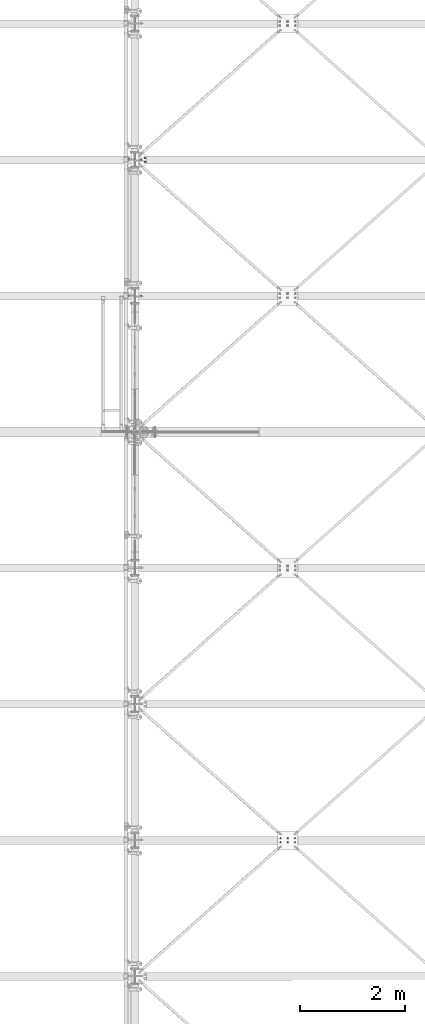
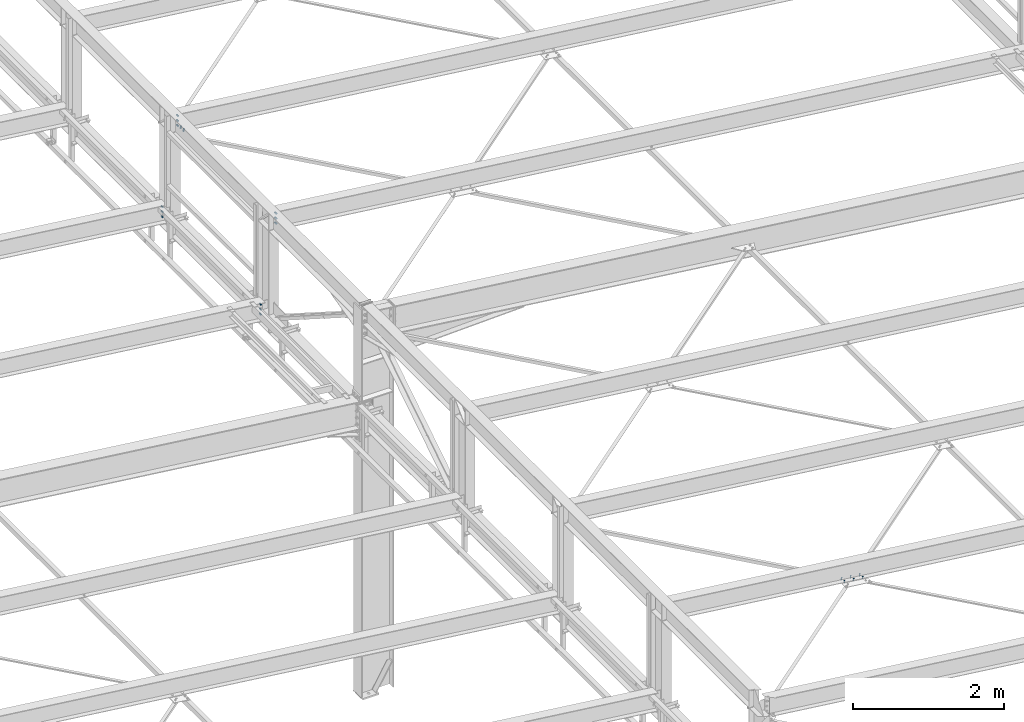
# One storey, part 255 of 3134: 6 mechanical fasteners, 5 elements without a shape of their own.
"""IFC2X3 building model written with IfcOpenShell, lengths in millimetres."""

import ifcopenshell
import ifcopenshell.guid

model = None  # the IFC model being written
_history = None  # IfcOwnerHistory: only IFC2X3 demands one
_inside = {}  # id of a spatial element -> (the spatial element, [elements in it])
_under = {}  # id of a project, library or spatial element -> (it, [spatial elements below it])
_declared = {}  # id of a project -> (the project, [libraries it declares])
_typed = {}  # id of a type object -> (the type object, [elements of that type])
_made_of = {}  # id of a material, layer set ... -> (it, [elements and type objects made of it])


def new_model(schema):
    """Start an empty IFC model of exactly this schema.

    Asked for "IFC4X3", IfcOpenShell would pick the latest addendum, in which some entities
    have other attributes; the version numbers below select the first issue.
    IFC2X3 requires an IfcOwnerHistory on every rooted entity: one is made here for all.
    """
    global model, _history
    if schema == "IFC4X3":
        model = ifcopenshell.file(schema_version=(4, 3, 0, 0))
    else:
        model = ifcopenshell.file(schema=schema)
    _inside.clear()
    _under.clear()
    _declared.clear()
    _typed.clear()
    _made_of.clear()
    _history = None
    if model.schema == "IFC2X3":
        org = make("IfcOrganization", Name="unknown")
        user = make(
            "IfcPersonAndOrganization",
            ThePerson=make("IfcPerson", FamilyName="unknown"),
            TheOrganization=org,
        )
        app = make(
            "IfcApplication",
            ApplicationDeveloper=org,
            Version="unknown",
            ApplicationFullName="unknown",
            ApplicationIdentifier="unknown",
        )
        _history = make(
            "IfcOwnerHistory",
            OwningUser=user,
            OwningApplication=app,
            ChangeAction="ADDED",
            CreationDate=0,
        )
    return model


def make(cls, **values):
    """One entity of the class cls with the attributes given. An attribute that is None is left unset."""
    return model.create_entity(
        cls, **{name: value for name, value in values.items() if value is not None}
    )


def rooted(cls, **values):
    """An entity with a GlobalId (a new one), such as an element, a storey or a relation."""
    return make(cls, GlobalId=ifcopenshell.guid.new(), OwnerHistory=_history, **values)


def si_unit(unit_type, name, prefix=None):
    """IfcSIUnit, for example si_unit("LENGTHUNIT", "METRE", prefix="MILLI")."""
    return make("IfcSIUnit", UnitType=unit_type, Prefix=prefix, Name=name)


def assignment(units):
    """IfcUnitAssignment: the units of a project."""
    return None if units is None else make("IfcUnitAssignment", Units=units)


def point(xyz):
    """IfcCartesianPoint."""
    return None if xyz is None else make("IfcCartesianPoint", Coordinates=xyz)


def direction(xyz):
    """IfcDirection."""
    return None if xyz is None else make("IfcDirection", DirectionRatios=xyz)


def frame(location, z_axis=None, x_axis=None):
    """IfcAxis2Placement3D, a coordinate frame: its origin and axes. An axis left out is left unset."""
    return make(
        "IfcAxis2Placement3D",
        Location=point(location),
        Axis=direction(z_axis),
        RefDirection=direction(x_axis),
    )


def origin_with_axes():
    """The frame at (0, 0, 0) with the z axis (0, 0, 1) and the x axis (1, 0, 0) written out."""
    return frame((0.0, 0.0, 0.0), z_axis=(0.0, 0.0, 1.0), x_axis=(1.0, 0.0, 0.0))


def place(relative_to, where):
    """IfcLocalPlacement: puts the frame where relative to a parent placement (None: the world)."""
    return make(
        "IfcLocalPlacement", PlacementRelTo=relative_to, RelativePlacement=where
    )


def context(
    kind, dimensions, precision=None, world=None, true_north=None, identifier=None
):
    """IfcGeometricRepresentationContext, for example the 3D "Model" context."""
    return make(
        "IfcGeometricRepresentationContext",
        ContextIdentifier=identifier,
        ContextType=kind,
        CoordinateSpaceDimension=dimensions,
        Precision=precision,
        WorldCoordinateSystem=world,
        TrueNorth=true_north,
    )


def subcontext(parent, identifier, kind, view, scale=None):
    """IfcGeometricRepresentationSubContext, for example "Body" below "Model"."""
    return make(
        "IfcGeometricRepresentationSubContext",
        ContextIdentifier=identifier,
        ContextType=kind,
        ParentContext=parent,
        TargetScale=scale,
        TargetView=view,
    )


def project(units=None, contexts=None):
    """IfcProject with its units and contexts."""
    return rooted(
        "IfcProject",
        Name="project",
        RepresentationContexts=contexts,
        UnitsInContext=assignment(units),
    )


def spatial(cls, under=None, at=None, **own):
    """A site, building, storey or space (cls), placed at a placement, below another one or the project."""
    s = rooted(cls, ObjectPlacement=at, **own)
    if under is not None:
        _under.setdefault(under.id(), (under, []))[1].append(s)
    return s


def faces_of(points, faces, orient=None, outer=None):
    """IfcFace entities. A face is a list of loops; a loop is a list of indices into points, from 0.

    orient and outer hold one flag for each loop. By default every Orientation is true, the
    first loop of a face is its IfcFaceOuterBound and the others are IfcFaceBound.
    """
    made = []
    for i, loops in enumerate(faces):
        bounds = []
        for j, loop in enumerate(loops):
            is_outer = j == 0 if outer is None else outer[i][j]
            bounds.append(
                make(
                    "IfcFaceOuterBound" if is_outer else "IfcFaceBound",
                    Bound=make("IfcPolyLoop", Polygon=[points[k] for k in loop]),
                    Orientation=True if orient is None else orient[i][j],
                )
            )
        made.append(make("IfcFace", Bounds=bounds))
    return made


def faceted_brep(points, faces, orient=None, outer=None, voids=None):
    """IfcFacetedBrep: a solid bounded by flat faces; with voids (closed shells), ...WithVoids."""
    shared = [point(p) for p in points]
    hull = make("IfcClosedShell", CfsFaces=faces_of(shared, faces, orient, outer))
    if voids is None:
        return make("IfcFacetedBrep", Outer=hull)
    return make(
        "IfcFacetedBrepWithVoids",
        Outer=hull,
        Voids=[
            make(cls, CfsFaces=faces_of(shared, fs, o, b)) for cls, fs, o, b in voids
        ],
    )


def shape(context_of_items, identifier, shape_type, items):
    """IfcShapeRepresentation: the items that make up one representation, for example the "Body"."""
    return make(
        "IfcShapeRepresentation",
        ContextOfItems=context_of_items,
        RepresentationIdentifier=identifier,
        RepresentationType=shape_type,
        Items=items,
    )


def source(mapping_origin, context_of_items, identifier, shape_type, items):
    """IfcRepresentationMap: a shape defined once, which mapped items show again and again."""
    return make(
        "IfcRepresentationMap",
        MappingOrigin=mapping_origin,
        MappedRepresentation=shape(context_of_items, identifier, shape_type, items),
    )


def transform(
    local_origin,
    x_axis=None,
    y_axis=None,
    z_axis=None,
    scale=None,
    scale2=None,
    scale3=None,
    uniform=True,
):
    """IfcCartesianTransformationOperator3D, or its non-uniform kind. x_axis, y_axis, z_axis: its Axis1, 2, 3."""
    if uniform:
        return make(
            "IfcCartesianTransformationOperator3D",
            Axis1=direction(x_axis),
            Axis2=direction(y_axis),
            LocalOrigin=point(local_origin),
            Scale=scale,
            Axis3=direction(z_axis),
        )
    return make(
        "IfcCartesianTransformationOperator3DnonUniform",
        Axis1=direction(x_axis),
        Axis2=direction(y_axis),
        LocalOrigin=point(local_origin),
        Scale=scale,
        Axis3=direction(z_axis),
        Scale2=scale2,
        Scale3=scale3,
    )


def mapped(mapping_source, mapping_target):
    """IfcMappedItem: shows the shape of a source again, moved by a transform."""
    return make(
        "IfcMappedItem", MappingSource=mapping_source, MappingTarget=mapping_target
    )


def material(Name=None, Category=None):
    """IfcMaterial."""
    return make("IfcMaterial", Name=Name, Category=Category)


def made_of(thing, what):
    """Note that an element or type object is made of a material, layer set ...; save() writes the relation."""
    if what is not None:
        _made_of.setdefault(what.id(), (what, []))[1].append(thing)
    return thing


def type_object(cls, material=None, **own):
    """A type object (cls), such as IfcWallType, which elements share."""
    return made_of(rooted(cls, **own), material)


def element(
    cls,
    number,
    at=None,
    inside=None,
    cuts=None,
    type_object=None,
    material=None,
    context=None,
    identifier="Body",
    shape_type=None,
    held_by="IfcProductDefinitionShape",
    body=None,
    shapes=None,
    **own,
):
    """One element of the class cls, such as IfcWall. Its Tag is "e" and its number.

    at: its placement. inside: the storey or other place that contains it. cuts: it is an
    opening in that element (IfcRelVoidsElement). A single representation is given by context,
    identifier, shape_type and body (its items); several are given by shapes. held_by: the class
    of the entity that holds the representations. save() writes the other relations.
    """
    e = rooted(cls, Tag="e%d" % number, ObjectPlacement=at, **own)
    if body is not None:
        shapes = [shape(context, identifier, shape_type, body)]
    if shapes is not None:
        e.Representation = make(held_by, Representations=shapes)
    if inside is not None:
        _inside.setdefault(inside.id(), (inside, []))[1].append(e)
    if cuts is not None:
        rooted(
            "IfcRelVoidsElement", RelatingBuildingElement=cuts, RelatedOpeningElement=e
        )
    if type_object is not None:
        _typed.setdefault(type_object.id(), (type_object, []))[1].append(e)
    return made_of(e, material)


def aggregate(whole, parts):
    """IfcRelAggregates: a whole, such as a stair, and the parts it consists of."""
    return rooted("IfcRelAggregates", RelatingObject=whole, RelatedObjects=parts)


def save(model, path):
    """Write the relations noted so far, then the file.

    IfcRelAggregates (storeys below a building ...), IfcRelContainedInSpatialStructure (elements
    in a storey), IfcRelDefinesByType, IfcRelAssociatesMaterial and IfcRelDeclares: one each for
    every whole, place, type object, material and project.
    """
    for whole, parts in _under.values():
        aggregate(whole, parts)
    for where, things in _inside.values():
        rooted(
            "IfcRelContainedInSpatialStructure",
            RelatedElements=things,
            RelatingStructure=where,
        )
    for kind, things in _typed.values():
        rooted("IfcRelDefinesByType", RelatedObjects=things, RelatingType=kind)
    for what, things in _made_of.values():
        rooted("IfcRelAssociatesMaterial", RelatedObjects=things, RelatingMaterial=what)
    for by, libraries in _declared.values():
        rooted("IfcRelDeclares", RelatingContext=by, RelatedDefinitions=libraries)
    model.write(path)


model = new_model("IFC2X3")

# Units and contexts
model_context = context("Model", 3, precision=1e-05, world=origin_with_axes())
body_context = subcontext(model_context, "Body", "Model", "MODEL_VIEW")
ifc_project = project(units=[si_unit("LENGTHUNIT", "METRE", prefix="MILLI"), si_unit("AREAUNIT", "SQUARE_METRE"), si_unit("VOLUMEUNIT", "CUBIC_METRE"), si_unit("MASSUNIT", "GRAM", prefix="KILO"), si_unit("TIMEUNIT", "SECOND"), si_unit("PLANEANGLEUNIT", "RADIAN"), si_unit("SOLIDANGLEUNIT", "STERADIAN"), si_unit("THERMODYNAMICTEMPERATUREUNIT", "DEGREE_CELSIUS"), si_unit("LUMINOUSINTENSITYUNIT", "LUMEN")], contexts=[model_context])

# Site, building, storey
site_placement = place(None, origin_with_axes())
site = spatial("IfcSite", under=ifc_project, at=site_placement, CompositionType="ELEMENT")
building_placement = place(site_placement, origin_with_axes())
building = spatial("IfcBuilding", under=site, at=building_placement, Name="Undefined", CompositionType="ELEMENT")
storey_placement = place(building_placement, origin_with_axes())
storey = spatial("IfcBuildingStorey", under=building, at=storey_placement, Name="Undefined", CompositionType="ELEMENT", Elevation=0.0)

# Assembly, mechanical fastener
assembly_1_placement = place(storey_placement, origin_with_axes())
assembly_1 = element("IfcElementAssembly", 1, at=assembly_1_placement, inside=storey, Name="300", AssemblyPlace="NOTDEFINED", PredefinedType="RIGID_FRAME")
ifc_material = material(Name="8.8")
mechanical_fastener_type = type_object("IfcMechanicalFastenerType", Name="Bolt assembly")
shared_shape_1 = source(origin_with_axes(), body_context, "Body", "Brep", [
    faceted_brep([(13.856406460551, -19.199990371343, 0.0), (6.92820323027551, -19.199990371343, 12.0), (-6.92820323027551, -19.199990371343, 12.0), (-13.856406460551, -19.199990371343, 1.69692038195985e-15), (-6.92820323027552, -19.199990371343, -12.0), (6.9282032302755, -19.199990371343, -12.0), (6.9282032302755, -9.19999037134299, -12.0), (-6.92820323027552, -9.19999037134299, -12.0), (-13.856406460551, -9.19999037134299, 1.69692038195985e-15), (-6.92820323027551, -9.19999037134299, 12.0), (6.92820323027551, -9.19999037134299, 12.0), (13.856406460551, -9.19999037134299, 0.0), (8.0, -9.19999037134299, 0.0), (6.92820323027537, -9.19999037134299, 4.00000000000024), (3.99999999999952, -9.19999037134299, 6.92820323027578), (-8.29068785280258e-13, -9.19999037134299, 8.0), (-4.00000000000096, -9.19999037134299, 6.92820323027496), (-6.9282032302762, -9.19999037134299, 3.99999999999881), (-8.0, -9.19999037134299, -1.65813757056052e-12), (-6.92820323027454, -9.19999037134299, -4.00000000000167), (-3.99999999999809, -9.19999037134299, -6.92820323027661), (2.47832457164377e-12, -9.19999037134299, -8.0), (4.00000000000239, -9.19999037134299, -6.92820323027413), (6.92820323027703, -9.19999037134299, -3.99999999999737), (6.92820323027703, 25.800009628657, -3.99999999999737), (4.00000000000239, 25.800009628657, -6.92820323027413), (2.47832457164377e-12, 25.800009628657, -8.0), (-3.99999999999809, 25.800009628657, -6.92820323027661), (-6.92820323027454, 25.800009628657, -4.00000000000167), (-8.0, 25.800009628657, -1.65813757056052e-12), (-6.9282032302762, 25.800009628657, 3.99999999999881), (-4.00000000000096, 25.800009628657, 6.92820323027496), (-8.29068785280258e-13, 25.800009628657, 8.0), (3.99999999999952, 25.800009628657, 6.92820323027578), (6.92820323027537, 25.800009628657, 4.00000000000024), (8.0, 25.800009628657, 0.0), (13.856406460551, 8.00000637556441, 0.0), (6.92820323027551, 8.00000637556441, 12.0), (-6.92820323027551, 8.00000637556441, 12.0), (-13.856406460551, 8.00000637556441, 1.69692038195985e-15), (-6.92820323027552, 8.00000637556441, -12.0), (6.9282032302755, 8.00000637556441, -12.0), (6.9282032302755, 21.0000063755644, -12.0), (-6.92820323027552, 21.0000063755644, -12.0), (-13.856406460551, 21.0000063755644, 1.69692038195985e-15), (-6.92820323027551, 21.0000063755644, 12.0), (6.92820323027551, 21.0000063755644, 12.0), (13.856406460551, 21.0000063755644, 0.0)], [[[0, 1, 2, 3, 4, 5]], [[6, 7, 8, 9, 10, 11]], [[0, 11, 10, 1]], [[1, 10, 9, 2]], [[2, 9, 8, 3]], [[3, 8, 7, 4]], [[4, 7, 6, 5]], [[5, 6, 11, 0]], [[12, 13, 14, 15, 16, 17, 18, 19, 20, 21, 22, 23]], [[24, 25, 26, 27, 28, 29, 30, 31, 32, 33, 34, 35]], [[12, 35, 34, 13]], [[13, 34, 33, 14]], [[14, 33, 32, 15]], [[15, 32, 31, 16]], [[16, 31, 30, 17]], [[17, 30, 29, 18]], [[18, 29, 28, 19]], [[19, 28, 27, 20]], [[20, 27, 26, 21]], [[21, 26, 25, 22]], [[22, 25, 24, 23]], [[23, 24, 35, 12]], [[36, 37, 38, 39, 40, 41]], [[42, 43, 44, 45, 46, 47]], [[36, 47, 46, 37]], [[37, 46, 45, 38]], [[38, 45, 44, 39]], [[39, 44, 43, 40]], [[40, 43, 42, 41]], [[41, 42, 47, 36]]]),
    faceted_brep([(9.0, -0.1, 0.0), (7.79422863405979, -0.1, 4.50000000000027), (4.49999999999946, -0.1, 7.79422863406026), (-9.3270238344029e-13, -0.1, 9.0), (-4.50000000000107, -0.1, 7.79422863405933), (-7.79422863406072, -0.1, 4.49999999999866), (-9.0, -0.1, -1.86540476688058e-12), (-7.79422863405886, -0.1, -4.50000000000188), (-4.49999999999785, -0.1, -7.79422863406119), (2.78811514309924e-12, -0.1, -9.0), (4.50000000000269, -0.1, -7.7942286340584), (7.79422863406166, -0.1, -4.49999999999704), (7.79422863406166, 8.00000000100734, -4.49999999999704), (4.50000000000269, 8.00000000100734, -7.7942286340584), (2.78811514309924e-12, 8.00000000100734, -9.0), (-4.49999999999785, 8.00000000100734, -7.79422863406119), (-7.79422863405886, 8.00000000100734, -4.50000000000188), (-9.0, 8.00000000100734, -1.86540476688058e-12), (-7.79422863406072, 8.00000000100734, 4.49999999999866), (-4.50000000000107, 8.00000000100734, 7.79422863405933), (-9.3270238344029e-13, 8.00000000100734, 9.0), (4.49999999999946, 8.00000000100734, 7.79422863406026), (7.79422863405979, 8.00000000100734, 4.50000000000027), (9.0, 8.00000000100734, 0.0), (9.0, -9.09999037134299, 0.0), (7.79422863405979, -9.09999037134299, 4.50000000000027), (4.49999999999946, -9.09999037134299, 7.79422863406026), (-9.3270238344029e-13, -9.09999037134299, 9.0), (-4.50000000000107, -9.09999037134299, 7.79422863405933), (-7.79422863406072, -9.09999037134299, 4.49999999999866), (-9.0, -9.09999037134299, -1.86540476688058e-12), (-7.79422863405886, -9.09999037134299, -4.50000000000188), (-4.49999999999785, -9.09999037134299, -7.79422863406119), (2.78811514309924e-12, -9.09999037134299, -9.0), (4.50000000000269, -9.09999037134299, -7.7942286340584), (7.79422863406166, -9.09999037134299, -4.49999999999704), (7.79422863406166, 0.100000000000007, -4.49999999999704), (4.50000000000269, 0.100000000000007, -7.7942286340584), (2.78811514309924e-12, 0.100000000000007, -9.0), (-4.49999999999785, 0.100000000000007, -7.79422863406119), (-7.79422863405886, 0.100000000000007, -4.50000000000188), (-9.0, 0.100000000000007, -1.86540476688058e-12), (-7.79422863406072, 0.100000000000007, 4.49999999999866), (-4.50000000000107, 0.100000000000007, 7.79422863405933), (-9.3270238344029e-13, 0.100000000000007, 9.0), (4.49999999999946, 0.100000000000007, 7.79422863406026), (7.79422863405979, 0.100000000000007, 4.50000000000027), (9.0, 0.100000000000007, 0.0)], [[[0, 1, 2, 3, 4, 5, 6, 7, 8, 9, 10, 11]], [[12, 13, 14, 15, 16, 17, 18, 19, 20, 21, 22, 23]], [[0, 23, 22, 1]], [[1, 22, 21, 2]], [[2, 21, 20, 3]], [[3, 20, 19, 4]], [[4, 19, 18, 5]], [[5, 18, 17, 6]], [[6, 17, 16, 7]], [[7, 16, 15, 8]], [[8, 15, 14, 9]], [[9, 14, 13, 10]], [[10, 13, 12, 11]], [[11, 12, 23, 0]], [[24, 25, 26, 27, 28, 29, 30, 31, 32, 33, 34, 35]], [[36, 37, 38, 39, 40, 41, 42, 43, 44, 45, 46, 47]], [[24, 47, 46, 25]], [[25, 46, 45, 26]], [[26, 45, 44, 27]], [[27, 44, 43, 28]], [[28, 43, 42, 29]], [[29, 42, 41, 30]], [[30, 41, 40, 31]], [[31, 40, 39, 32]], [[32, 39, 38, 33]], [[33, 38, 37, 34]], [[34, 37, 36, 35]], [[35, 36, 47, 24]]]),
])
mechanical_fastener_1_placement = place(assembly_1_placement, frame((44389.2248161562, 45487.9995130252, 5496.68063428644), z_axis=(0.992623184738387, 1.63108538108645e-05, -0.12124031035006), x_axis=(1.62000016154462e-05, -0.999999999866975, -1.90000018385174e-06)))
mechanical_fastener_1 = element("IfcMechanicalFastener", 2, at=mechanical_fastener_1_placement, type_object=mechanical_fastener_type, material=ifc_material, Name="Bolt assembly", NominalDiameter=16.0, NominalLength=35.0, context=body_context, shape_type="MappedRepresentation", body=[
    mapped(shared_shape_1, transform((0.0, 0.0, 0.0))),
    mapped(shared_shape_1, transform((76.0, 0.0, 0.0))),
])

assembly_2_placement = place(storey_placement, origin_with_axes())
assembly_2 = element("IfcElementAssembly", 3, at=assembly_2_placement, inside=storey, Name="300", AssemblyPlace="NOTDEFINED", PredefinedType="RIGID_FRAME")
shared_shape_2 = source(origin_with_axes(), body_context, "Body", "Brep", [
    faceted_brep([(13.856406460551, -13.0499999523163, 0.0), (6.92820323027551, -13.0499999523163, 12.0), (-6.92820323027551, -13.0499999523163, 12.0), (-13.856406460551, -13.0499999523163, 1.69692038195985e-15), (-6.92820323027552, -13.0499999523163, -12.0), (6.9282032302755, -13.0499999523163, -12.0), (6.9282032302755, -3.04999995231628, -12.0), (-6.92820323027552, -3.04999995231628, -12.0), (-13.856406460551, -3.04999995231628, 1.69692038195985e-15), (-6.92820323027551, -3.04999995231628, 12.0), (6.92820323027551, -3.04999995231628, 12.0), (13.856406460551, -3.04999995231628, 0.0), (8.0, -3.04999995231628, 0.0), (6.92820323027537, -3.04999995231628, 4.00000000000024), (3.99999999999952, -3.04999995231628, 6.92820323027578), (-8.29068785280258e-13, -3.04999995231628, 8.0), (-4.00000000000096, -3.04999995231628, 6.92820323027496), (-6.9282032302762, -3.04999995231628, 3.99999999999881), (-8.0, -3.04999995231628, -1.65813757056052e-12), (-6.92820323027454, -3.04999995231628, -4.00000000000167), (-3.99999999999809, -3.04999995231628, -6.92820323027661), (2.47832457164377e-12, -3.04999995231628, -8.0), (4.00000000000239, -3.04999995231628, -6.92820323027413), (6.92820323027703, -3.04999995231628, -3.99999999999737), (6.92820323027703, 31.9500000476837, -3.99999999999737), (4.00000000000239, 31.9500000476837, -6.92820323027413), (2.47832457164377e-12, 31.9500000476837, -8.0), (-3.99999999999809, 31.9500000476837, -6.92820323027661), (-6.92820323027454, 31.9500000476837, -4.00000000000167), (-8.0, 31.9500000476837, -1.65813757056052e-12), (-6.9282032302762, 31.9500000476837, 3.99999999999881), (-4.00000000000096, 31.9500000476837, 6.92820323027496), (-8.29068785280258e-13, 31.9500000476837, 8.0), (3.99999999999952, 31.9500000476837, 6.92820323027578), (6.92820323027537, 31.9500000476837, 4.00000000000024), (8.0, 31.9500000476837, 0.0), (13.856406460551, 13.0500000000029, 0.0), (6.92820323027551, 13.0500000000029, 12.0), (-6.92820323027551, 13.0500000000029, 12.0), (-13.856406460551, 13.0500000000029, 1.69692038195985e-15), (-6.92820323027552, 13.0500000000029, -12.0), (6.9282032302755, 13.0500000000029, -12.0), (6.9282032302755, 26.0500000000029, -12.0), (-6.92820323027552, 26.0500000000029, -12.0), (-13.856406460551, 26.0500000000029, 1.69692038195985e-15), (-6.92820323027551, 26.0500000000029, 12.0), (6.92820323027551, 26.0500000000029, 12.0), (13.856406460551, 26.0500000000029, 0.0)], [[[0, 1, 2, 3, 4, 5]], [[6, 7, 8, 9, 10, 11]], [[0, 11, 10, 1]], [[1, 10, 9, 2]], [[2, 9, 8, 3]], [[3, 8, 7, 4]], [[4, 7, 6, 5]], [[5, 6, 11, 0]], [[12, 13, 14, 15, 16, 17, 18, 19, 20, 21, 22, 23]], [[24, 25, 26, 27, 28, 29, 30, 31, 32, 33, 34, 35]], [[12, 35, 34, 13]], [[13, 34, 33, 14]], [[14, 33, 32, 15]], [[15, 32, 31, 16]], [[16, 31, 30, 17]], [[17, 30, 29, 18]], [[18, 29, 28, 19]], [[19, 28, 27, 20]], [[20, 27, 26, 21]], [[21, 26, 25, 22]], [[22, 25, 24, 23]], [[23, 24, 35, 12]], [[36, 37, 38, 39, 40, 41]], [[42, 43, 44, 45, 46, 47]], [[36, 47, 46, 37]], [[37, 46, 45, 38]], [[38, 45, 44, 39]], [[39, 44, 43, 40]], [[40, 43, 42, 41]], [[41, 42, 47, 36]]]),
    faceted_brep([(9.0, 2.95000000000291, 0.0), (7.79422863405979, 2.95000000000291, 4.50000000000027), (4.49999999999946, 2.95000000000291, 7.79422863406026), (-9.3270238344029e-13, 2.95000000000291, 9.0), (-4.50000000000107, 2.95000000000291, 7.79422863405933), (-7.79422863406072, 2.95000000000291, 4.49999999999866), (-9.0, 2.95000000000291, -1.86540476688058e-12), (-7.79422863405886, 2.95000000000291, -4.50000000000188), (-4.49999999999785, 2.95000000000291, -7.79422863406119), (2.78811514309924e-12, 2.95000000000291, -9.0), (4.50000000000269, 2.95000000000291, -7.7942286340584), (7.79422863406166, 2.95000000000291, -4.49999999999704), (7.79422863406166, 13.0500000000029, -4.49999999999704), (4.50000000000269, 13.0500000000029, -7.7942286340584), (2.78811514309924e-12, 13.0500000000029, -9.0), (-4.49999999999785, 13.0500000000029, -7.79422863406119), (-7.79422863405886, 13.0500000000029, -4.50000000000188), (-9.0, 13.0500000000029, -1.86540476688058e-12), (-7.79422863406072, 13.0500000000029, 4.49999999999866), (-4.50000000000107, 13.0500000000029, 7.79422863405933), (-9.3270238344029e-13, 13.0500000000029, 9.0), (4.49999999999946, 13.0500000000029, 7.79422863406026), (7.79422863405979, 13.0500000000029, 4.50000000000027), (9.0, 13.0500000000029, 0.0), (9.0, -2.94999995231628, 0.0), (7.79422863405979, -2.94999995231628, 4.50000000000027), (4.49999999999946, -2.94999995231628, 7.79422863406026), (-9.3270238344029e-13, -2.94999995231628, 9.0), (-4.50000000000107, -2.94999995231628, 7.79422863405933), (-7.79422863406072, -2.94999995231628, 4.49999999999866), (-9.0, -2.94999995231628, -1.86540476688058e-12), (-7.79422863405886, -2.94999995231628, -4.50000000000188), (-4.49999999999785, -2.94999995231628, -7.79422863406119), (2.78811514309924e-12, -2.94999995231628, -9.0), (4.50000000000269, -2.94999995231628, -7.7942286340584), (7.79422863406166, -2.94999995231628, -4.49999999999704), (7.79422863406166, 3.14999995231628, -4.49999999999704), (4.50000000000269, 3.14999995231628, -7.7942286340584), (2.78811514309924e-12, 3.14999995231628, -9.0), (-4.49999999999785, 3.14999995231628, -7.79422863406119), (-7.79422863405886, 3.14999995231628, -4.50000000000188), (-9.0, 3.14999995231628, -1.86540476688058e-12), (-7.79422863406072, 3.14999995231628, 4.49999999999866), (-4.50000000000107, 3.14999995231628, 7.79422863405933), (-9.3270238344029e-13, 3.14999995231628, 9.0), (4.49999999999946, 3.14999995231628, 7.79422863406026), (7.79422863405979, 3.14999995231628, 4.50000000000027), (9.0, 3.14999995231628, 0.0)], [[[0, 1, 2, 3, 4, 5, 6, 7, 8, 9, 10, 11]], [[12, 13, 14, 15, 16, 17, 18, 19, 20, 21, 22, 23]], [[0, 23, 22, 1]], [[1, 22, 21, 2]], [[2, 21, 20, 3]], [[3, 20, 19, 4]], [[4, 19, 18, 5]], [[5, 18, 17, 6]], [[6, 17, 16, 7]], [[7, 16, 15, 8]], [[8, 15, 14, 9]], [[9, 14, 13, 10]], [[10, 13, 12, 11]], [[11, 12, 23, 0]], [[24, 25, 26, 27, 28, 29, 30, 31, 32, 33, 34, 35]], [[36, 37, 38, 39, 40, 41, 42, 43, 44, 45, 46, 47]], [[24, 47, 46, 25]], [[25, 46, 45, 26]], [[26, 45, 44, 27]], [[27, 44, 43, 28]], [[28, 43, 42, 29]], [[29, 42, 41, 30]], [[30, 41, 40, 31]], [[31, 40, 39, 32]], [[32, 39, 38, 33]], [[33, 38, 37, 34]], [[34, 37, 36, 35]], [[35, 36, 47, 24]]]),
])
mechanical_fastener_2_placement = place(assembly_2_placement, frame((44085.0, 45450.0, 4337.44269270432), z_axis=(1.0, 0.0, 0.0), x_axis=(0.0, 0.0, -1.0)))
mechanical_fastener_2 = element("IfcMechanicalFastener", 4, at=mechanical_fastener_2_placement, type_object=mechanical_fastener_type, material=ifc_material, Name="Bolt assembly", NominalDiameter=16.0, NominalLength=35.0, context=body_context, shape_type="MappedRepresentation", body=[
    mapped(shared_shape_2, transform((0.0, 0.0, 0.0))),
    mapped(shared_shape_2, transform((80.0, 0.0, 0.0))),
    mapped(shared_shape_2, transform((160.0, 0.0, 0.0))),
])
aggregate(assembly_2, [mechanical_fastener_2])

assembly_3_placement = place(storey_placement, origin_with_axes())
assembly_3 = element("IfcElementAssembly", 5, at=assembly_3_placement, inside=storey, Name="300", AssemblyPlace="NOTDEFINED", PredefinedType="RIGID_FRAME")
mechanical_fastener_3_placement = place(assembly_3_placement, frame((44085.0, 42850.0, 4337.44269270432), z_axis=(1.0, 0.0, 0.0), x_axis=(0.0, 0.0, -1.0)))
mechanical_fastener_3 = element("IfcMechanicalFastener", 6, at=mechanical_fastener_3_placement, type_object=mechanical_fastener_type, material=ifc_material, Name="Bolt assembly", NominalDiameter=16.0, NominalLength=35.0, context=body_context, shape_type="MappedRepresentation", body=[
    mapped(shared_shape_2, transform((0.0, 0.0, 0.0))),
    mapped(shared_shape_2, transform((80.0, 0.0, 0.0))),
    mapped(shared_shape_2, transform((160.0, 0.0, 0.0))),
])
aggregate(assembly_3, [mechanical_fastener_3])

assembly_4_placement = place(storey_placement, origin_with_axes())
assembly_4 = element("IfcElementAssembly", 7, at=assembly_4_placement, inside=storey, Name="300", AssemblyPlace="NOTDEFINED", PredefinedType="RIGID_FRAME")
shared_shape_3 = source(origin_with_axes(), body_context, "Body", "Brep", [
    faceted_brep([(10.9696551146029, -17.1999998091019, 0.0), (5.48482755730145, -17.1999998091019, 9.5), (-5.48482755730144, -17.1999998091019, 9.5), (-10.9696551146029, -17.1999998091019, 1.34339530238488e-15), (-5.48482755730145, -17.1999998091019, -9.5), (5.48482755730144, -17.1999998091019, -9.50000000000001), (5.48482755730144, -9.19999978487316, -9.50000000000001), (-5.48482755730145, -9.19999978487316, -9.5), (-10.9696551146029, -9.19999978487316, 1.34339530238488e-15), (-5.48482755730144, -9.19999978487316, 9.5), (5.48482755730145, -9.19999978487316, 9.5), (10.9696551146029, -9.19999978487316, 0.0), (6.0, -9.19999978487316, 0.0), (5.19615242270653, -9.19999978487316, 3.00000000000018), (2.99999999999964, -9.19999978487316, 5.19615242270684), (-6.21801588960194e-13, -9.19999978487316, 6.0), (-3.00000000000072, -9.19999978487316, 5.19615242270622), (-5.19615242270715, -9.19999978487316, 2.9999999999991), (-6.0, -9.19999978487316, -1.24360317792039e-12), (-5.19615242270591, -9.19999978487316, -3.00000000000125), (-2.99999999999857, -9.19999978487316, -5.19615242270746), (1.85874342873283e-12, -9.19999978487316, -6.0), (3.00000000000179, -9.19999978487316, -5.1961524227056), (5.19615242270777, -9.19999978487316, -2.99999999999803), (5.19615242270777, 25.8000002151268, -2.99999999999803), (3.00000000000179, 25.8000002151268, -5.1961524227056), (1.85874342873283e-12, 25.8000002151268, -6.0), (-2.99999999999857, 25.8000002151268, -5.19615242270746), (-5.19615242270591, 25.8000002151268, -3.00000000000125), (-6.0, 25.8000002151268, -1.24360317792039e-12), (-5.19615242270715, 25.8000002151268, 2.9999999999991), (-3.00000000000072, 25.8000002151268, 5.19615242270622), (-6.21801588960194e-13, 25.8000002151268, 6.0), (2.99999999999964, 25.8000002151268, 5.19615242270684), (5.19615242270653, 25.8000002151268, 3.00000000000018), (6.0, 25.8000002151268, 0.0), (10.9696551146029, 8.0, 0.0), (5.48482755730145, 8.0, 9.5), (-5.48482755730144, 8.0, 9.5), (-10.9696551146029, 8.0, 1.34339530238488e-15), (-5.48482755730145, 8.0, -9.5), (5.48482755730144, 8.0, -9.50000000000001), (5.48482755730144, 18.0, -9.50000000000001), (-5.48482755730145, 18.0, -9.5), (-10.9696551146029, 18.0, 1.34339530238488e-15), (-5.48482755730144, 18.0, 9.5), (5.48482755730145, 18.0, 9.5), (10.9696551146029, 18.0, 0.0)], [[[0, 1, 2, 3, 4, 5]], [[6, 7, 8, 9, 10, 11]], [[0, 11, 10, 1]], [[1, 10, 9, 2]], [[2, 9, 8, 3]], [[3, 8, 7, 4]], [[4, 7, 6, 5]], [[5, 6, 11, 0]], [[12, 13, 14, 15, 16, 17, 18, 19, 20, 21, 22, 23]], [[24, 25, 26, 27, 28, 29, 30, 31, 32, 33, 34, 35]], [[12, 35, 34, 13]], [[13, 34, 33, 14]], [[14, 33, 32, 15]], [[15, 32, 31, 16]], [[16, 31, 30, 17]], [[17, 30, 29, 18]], [[18, 29, 28, 19]], [[19, 28, 27, 20]], [[20, 27, 26, 21]], [[21, 26, 25, 22]], [[22, 25, 24, 23]], [[23, 24, 35, 12]], [[36, 37, 38, 39, 40, 41]], [[42, 43, 44, 45, 46, 47]], [[36, 47, 46, 37]], [[37, 46, 45, 38]], [[38, 45, 44, 39]], [[39, 44, 43, 40]], [[40, 43, 42, 41]], [[41, 42, 47, 36]]]),
    faceted_brep([(7.0, -0.1, 0.0), (6.06217782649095, -0.1, 3.50000000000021), (3.49999999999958, -0.1, 6.06217782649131), (-7.25435187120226e-13, -0.1, 7.0), (-3.50000000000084, -0.1, 6.06217782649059), (-6.06217782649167, -0.1, 3.49999999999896), (-7.0, -0.1, -1.45087037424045e-12), (-6.06217782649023, -0.1, -3.50000000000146), (-3.49999999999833, -0.1, -6.06217782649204), (2.1685340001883e-12, -0.1, -7.0), (3.50000000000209, -0.1, -6.06217782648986), (6.0621778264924, -0.1, -3.4999999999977), (6.0621778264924, 8.0000000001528, -3.4999999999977), (3.50000000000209, 8.0000000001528, -6.06217782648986), (2.1685340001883e-12, 8.0000000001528, -7.0), (-3.49999999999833, 8.0000000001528, -6.06217782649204), (-6.06217782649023, 8.0000000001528, -3.50000000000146), (-7.0, 8.0000000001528, -1.45087037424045e-12), (-6.06217782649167, 8.0000000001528, 3.49999999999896), (-3.50000000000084, 8.0000000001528, 6.06217782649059), (-7.25435187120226e-13, 8.0000000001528, 7.0), (3.49999999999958, 8.0000000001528, 6.06217782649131), (6.06217782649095, 8.0000000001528, 3.50000000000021), (7.0, 8.0000000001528, 0.0), (7.0, -9.09999980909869, 0.0), (6.06217782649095, -9.09999980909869, 3.50000000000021), (3.49999999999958, -9.09999980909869, 6.06217782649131), (-7.25435187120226e-13, -9.09999980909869, 7.0), (-3.50000000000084, -9.09999980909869, 6.06217782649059), (-6.06217782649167, -9.09999980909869, 3.49999999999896), (-7.0, -9.09999980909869, -1.45087037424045e-12), (-6.06217782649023, -9.09999980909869, -3.50000000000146), (-3.49999999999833, -9.09999980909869, -6.06217782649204), (2.1685340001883e-12, -9.09999980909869, -7.0), (3.50000000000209, -9.09999980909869, -6.06217782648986), (6.0621778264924, -9.09999980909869, -3.4999999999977), (6.0621778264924, 0.0999999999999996, -3.4999999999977), (3.50000000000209, 0.0999999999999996, -6.06217782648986), (2.1685340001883e-12, 0.0999999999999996, -7.0), (-3.49999999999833, 0.0999999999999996, -6.06217782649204), (-6.06217782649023, 0.0999999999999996, -3.50000000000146), (-7.0, 0.0999999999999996, -1.45087037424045e-12), (-6.06217782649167, 0.0999999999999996, 3.49999999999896), (-3.50000000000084, 0.0999999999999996, 6.06217782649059), (-7.25435187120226e-13, 0.0999999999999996, 7.0), (3.49999999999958, 0.0999999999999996, 6.06217782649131), (6.06217782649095, 0.0999999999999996, 3.50000000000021), (7.0, 0.0999999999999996, 0.0)], [[[0, 1, 2, 3, 4, 5, 6, 7, 8, 9, 10, 11]], [[12, 13, 14, 15, 16, 17, 18, 19, 20, 21, 22, 23]], [[0, 23, 22, 1]], [[1, 22, 21, 2]], [[2, 21, 20, 3]], [[3, 20, 19, 4]], [[4, 19, 18, 5]], [[5, 18, 17, 6]], [[6, 17, 16, 7]], [[7, 16, 15, 8]], [[8, 15, 14, 9]], [[9, 14, 13, 10]], [[10, 13, 12, 11]], [[11, 12, 23, 0]], [[24, 25, 26, 27, 28, 29, 30, 31, 32, 33, 34, 35]], [[36, 37, 38, 39, 40, 41, 42, 43, 44, 45, 46, 47]], [[24, 47, 46, 25]], [[25, 46, 45, 26]], [[26, 45, 44, 27]], [[27, 44, 43, 28]], [[28, 43, 42, 29]], [[29, 42, 41, 30]], [[30, 41, 40, 31]], [[31, 40, 39, 32]], [[32, 39, 38, 33]], [[33, 38, 37, 34]], [[34, 37, 36, 35]], [[35, 36, 47, 24]]]),
])
mechanical_fastener_4_placement = place(assembly_4_placement, frame((47258.2022067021, 32450.0, 5146.25993625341), z_axis=(0.0, -1.0, 0.0), x_axis=(-0.992623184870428, 0.0, 0.121240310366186)))
mechanical_fastener_4 = element("IfcMechanicalFastener", 8, at=mechanical_fastener_4_placement, type_object=mechanical_fastener_type, material=ifc_material, Name="Bolt assembly", NominalDiameter=12.0, NominalLength=35.0, context=body_context, shape_type="MappedRepresentation", body=[
    mapped(shared_shape_3, transform((0.0, 0.0, -38.0))),
    mapped(shared_shape_3, transform((140.000000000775, 5.85714587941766e-10, -38.0))),
    mapped(shared_shape_3, transform((279.999999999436, -4.74756234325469e-10, -38.0))),
    mapped(shared_shape_3, transform((0.0, 0.0, 38.0))),
    mapped(shared_shape_3, transform((140.000000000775, 5.85714587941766e-10, 38.0))),
    mapped(shared_shape_3, transform((279.999999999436, -4.74756234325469e-10, 38.0))),
])
aggregate(assembly_4, [mechanical_fastener_4])

# Mechanical fastener
shared_shape_4 = source(origin_with_axes(), body_context, "Body", "Brep", [
    faceted_brep([(13.856406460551, -23.0499999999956, 0.0), (6.92820323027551, -23.0499999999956, 12.0), (-6.92820323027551, -23.0499999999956, 12.0), (-13.856406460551, -23.0499999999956, 1.69692038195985e-15), (-6.92820323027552, -23.0499999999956, -12.0), (6.9282032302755, -23.0499999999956, -12.0), (6.9282032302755, -13.0499999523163, -12.0), (-6.92820323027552, -13.0499999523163, -12.0), (-13.856406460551, -13.0499999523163, 1.69692038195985e-15), (-6.92820323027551, -13.0499999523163, 12.0), (6.92820323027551, -13.0499999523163, 12.0), (13.856406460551, -13.0499999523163, 0.0), (8.0, -13.0499999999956, 0.0), (6.92820323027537, -13.0499999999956, 4.00000000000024), (3.99999999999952, -13.0499999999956, 6.92820323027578), (-8.29068785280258e-13, -13.0499999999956, 8.0), (-4.00000000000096, -13.0499999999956, 6.92820323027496), (-6.9282032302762, -13.0499999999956, 3.99999999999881), (-8.0, -13.0499999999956, -1.65813757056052e-12), (-6.92820323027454, -13.0499999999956, -4.00000000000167), (-3.99999999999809, -13.0499999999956, -6.92820323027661), (2.47832457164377e-12, -13.0499999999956, -8.0), (4.00000000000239, -13.0499999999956, -6.92820323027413), (6.92820323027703, -13.0499999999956, -3.99999999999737), (6.92820323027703, 21.9500000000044, -3.99999999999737), (4.00000000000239, 21.9500000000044, -6.92820323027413), (2.47832457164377e-12, 21.9500000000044, -8.0), (-3.99999999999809, 21.9500000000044, -6.92820323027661), (-6.92820323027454, 21.9500000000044, -4.00000000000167), (-8.0, 21.9500000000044, -1.65813757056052e-12), (-6.9282032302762, 21.9500000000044, 3.99999999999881), (-4.00000000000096, 21.9500000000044, 6.92820323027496), (-8.29068785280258e-13, 21.9500000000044, 8.0), (3.99999999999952, 21.9500000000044, 6.92820323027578), (6.92820323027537, 21.9500000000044, 4.00000000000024), (8.0, 21.9500000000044, 0.0), (13.856406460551, 3.04999995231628, 0.0), (6.92820323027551, 3.04999995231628, 12.0), (-6.92820323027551, 3.04999995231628, 12.0), (-13.856406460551, 3.04999995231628, 1.69692038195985e-15), (-6.92820323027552, 3.04999995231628, -12.0), (6.9282032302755, 3.04999995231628, -12.0), (6.9282032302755, 16.0499999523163, -12.0), (-6.92820323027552, 16.0499999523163, -12.0), (-13.856406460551, 16.0499999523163, 1.69692038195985e-15), (-6.92820323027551, 16.0499999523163, 12.0), (6.92820323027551, 16.0499999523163, 12.0), (13.856406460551, 16.0499999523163, 0.0)], [[[0, 1, 2, 3, 4, 5]], [[6, 7, 8, 9, 10, 11]], [[0, 11, 10, 1]], [[1, 10, 9, 2]], [[2, 9, 8, 3]], [[3, 8, 7, 4]], [[4, 7, 6, 5]], [[5, 6, 11, 0]], [[12, 13, 14, 15, 16, 17, 18, 19, 20, 21, 22, 23]], [[24, 25, 26, 27, 28, 29, 30, 31, 32, 33, 34, 35]], [[12, 35, 34, 13]], [[13, 34, 33, 14]], [[14, 33, 32, 15]], [[15, 32, 31, 16]], [[16, 31, 30, 17]], [[17, 30, 29, 18]], [[18, 29, 28, 19]], [[19, 28, 27, 20]], [[20, 27, 26, 21]], [[21, 26, 25, 22]], [[22, 25, 24, 23]], [[23, 24, 35, 12]], [[36, 37, 38, 39, 40, 41]], [[42, 43, 44, 45, 46, 47]], [[36, 47, 46, 37]], [[37, 46, 45, 38]], [[38, 45, 44, 39]], [[39, 44, 43, 40]], [[40, 43, 42, 41]], [[41, 42, 47, 36]]]),
    faceted_brep([(9.0, -12.9499999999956, 0.0), (7.79422863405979, -12.9499999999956, 4.50000000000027), (4.49999999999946, -12.9499999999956, 7.79422863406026), (-9.3270238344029e-13, -12.9499999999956, 9.0), (-4.50000000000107, -12.9499999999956, 7.79422863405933), (-7.79422863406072, -12.9499999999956, 4.49999999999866), (-9.0, -12.9499999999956, -1.86540476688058e-12), (-7.79422863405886, -12.9499999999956, -4.50000000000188), (-4.49999999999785, -12.9499999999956, -7.79422863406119), (2.78811514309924e-12, -12.9499999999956, -9.0), (4.50000000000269, -12.9499999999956, -7.7942286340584), (7.79422863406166, -12.9499999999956, -4.49999999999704), (7.79422863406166, -2.94999995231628, -4.49999999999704), (4.50000000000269, -2.94999995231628, -7.7942286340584), (2.78811514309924e-12, -2.94999995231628, -9.0), (-4.49999999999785, -2.94999995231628, -7.79422863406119), (-7.79422863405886, -2.94999995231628, -4.50000000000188), (-9.0, -2.94999995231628, -1.86540476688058e-12), (-7.79422863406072, -2.94999995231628, 4.49999999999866), (-4.50000000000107, -2.94999995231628, 7.79422863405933), (-9.3270238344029e-13, -2.94999995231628, 9.0), (4.49999999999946, -2.94999995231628, 7.79422863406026), (7.79422863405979, -2.94999995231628, 4.50000000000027), (9.0, -2.94999995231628, 0.0), (9.0, -3.14999995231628, 0.0), (7.79422863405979, -3.14999995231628, 4.50000000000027), (4.49999999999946, -3.14999995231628, 7.79422863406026), (-9.3270238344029e-13, -3.14999995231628, 9.0), (-4.50000000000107, -3.14999995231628, 7.79422863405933), (-7.79422863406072, -3.14999995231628, 4.49999999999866), (-9.0, -3.14999995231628, -1.86540476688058e-12), (-7.79422863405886, -3.14999995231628, -4.50000000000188), (-4.49999999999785, -3.14999995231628, -7.79422863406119), (2.78811514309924e-12, -3.14999995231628, -9.0), (4.50000000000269, -3.14999995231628, -7.7942286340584), (7.79422863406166, -3.14999995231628, -4.49999999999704), (7.79422863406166, 3.04999995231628, -4.49999999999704), (4.50000000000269, 3.04999995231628, -7.7942286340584), (2.78811514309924e-12, 3.04999995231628, -9.0), (-4.49999999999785, 3.04999995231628, -7.79422863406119), (-7.79422863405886, 3.04999995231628, -4.50000000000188), (-9.0, 3.04999995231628, -1.86540476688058e-12), (-7.79422863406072, 3.04999995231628, 4.49999999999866), (-4.50000000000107, 3.04999995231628, 7.79422863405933), (-9.3270238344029e-13, 3.04999995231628, 9.0), (4.49999999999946, 3.04999995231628, 7.79422863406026), (7.79422863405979, 3.04999995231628, 4.50000000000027), (9.0, 3.04999995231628, 0.0)], [[[0, 1, 2, 3, 4, 5, 6, 7, 8, 9, 10, 11]], [[12, 13, 14, 15, 16, 17, 18, 19, 20, 21, 22, 23]], [[0, 23, 22, 1]], [[1, 22, 21, 2]], [[2, 21, 20, 3]], [[3, 20, 19, 4]], [[4, 19, 18, 5]], [[5, 18, 17, 6]], [[6, 17, 16, 7]], [[7, 16, 15, 8]], [[8, 15, 14, 9]], [[9, 14, 13, 10]], [[10, 13, 12, 11]], [[11, 12, 23, 0]], [[24, 25, 26, 27, 28, 29, 30, 31, 32, 33, 34, 35]], [[36, 37, 38, 39, 40, 41, 42, 43, 44, 45, 46, 47]], [[24, 47, 46, 25]], [[25, 46, 45, 26]], [[26, 45, 44, 27]], [[27, 44, 43, 28]], [[28, 43, 42, 29]], [[29, 42, 41, 30]], [[30, 41, 40, 31]], [[31, 40, 39, 32]], [[32, 39, 38, 33]], [[33, 38, 37, 34]], [[34, 37, 36, 35]], [[35, 36, 47, 24]]]),
])
mechanical_fastener_5_placement = place(assembly_1_placement, frame((44315.0, 45450.0, 5735.35014950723), z_axis=(1.0, 0.0, 0.0), x_axis=(0.0, 0.0, -1.0)))
mechanical_fastener_5 = element("IfcMechanicalFastener", 9, at=mechanical_fastener_5_placement, type_object=mechanical_fastener_type, material=ifc_material, Name="Bolt assembly", NominalDiameter=16.0, NominalLength=35.0, context=body_context, shape_type="MappedRepresentation", body=[
    mapped(shared_shape_4, transform((0.0, 0.0, 0.0))),
    mapped(shared_shape_4, transform((80.0, 0.0, 0.0))),
    mapped(shared_shape_4, transform((160.0, 0.0, 0.0))),
])

aggregate(assembly_1, [mechanical_fastener_1, mechanical_fastener_5])

# Assembly, mechanical fastener
assembly_5_placement = place(storey_placement, origin_with_axes())
assembly_5 = element("IfcElementAssembly", 10, at=assembly_5_placement, inside=storey, Name="300", AssemblyPlace="NOTDEFINED", PredefinedType="RIGID_FRAME")
mechanical_fastener_6_placement = place(assembly_5_placement, frame((44315.0, 42850.0, 5735.35014950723), z_axis=(1.0, 0.0, 0.0), x_axis=(0.0, 0.0, -1.0)))
mechanical_fastener_6 = element("IfcMechanicalFastener", 11, at=mechanical_fastener_6_placement, type_object=mechanical_fastener_type, material=ifc_material, Name="Bolt assembly", NominalDiameter=16.0, NominalLength=35.0, context=body_context, shape_type="MappedRepresentation", body=[
    mapped(shared_shape_4, transform((0.0, 0.0, 0.0))),
    mapped(shared_shape_4, transform((80.0, 0.0, 0.0))),
    mapped(shared_shape_4, transform((160.0, 0.0, 0.0))),
])
aggregate(assembly_5, [mechanical_fastener_6])

save(model, "model.ifc")
